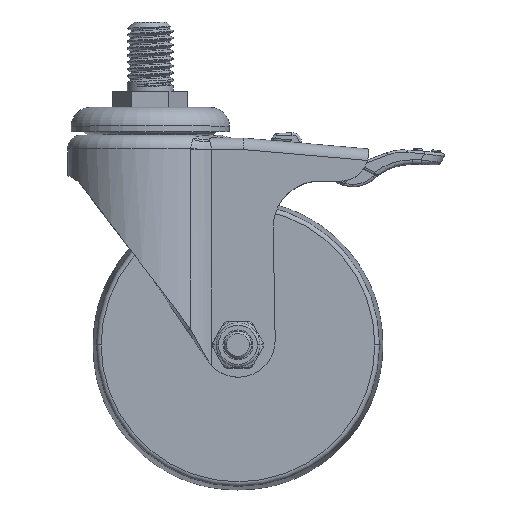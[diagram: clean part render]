
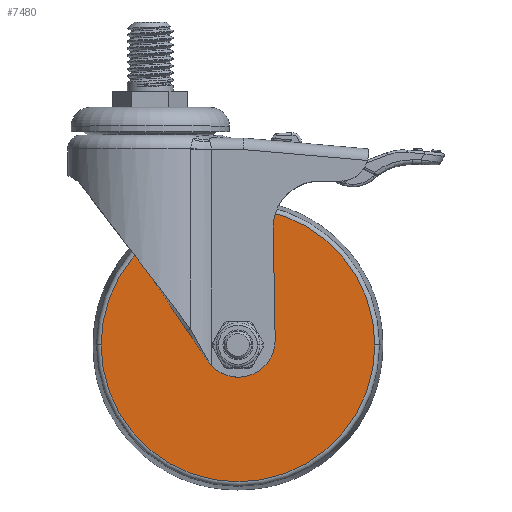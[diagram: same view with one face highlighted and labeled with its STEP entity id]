
A CAD part, top view. The second image highlights one B-rep face of the part: STEP entity #7480.
In plain terms, the highlighted planar face has unit normal (0, 0, 1) as drawn and (1, 0, 0) by its records, which use the part's own axes.
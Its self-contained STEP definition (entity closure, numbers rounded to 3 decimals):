
#7133=CARTESIAN_POINT('',(10.,0.,0.));
#7134=DIRECTION('',(-1.,0.,0.));
#7135=DIRECTION('',(0.,1.,0.));
#7136=AXIS2_PLACEMENT_3D('',#7133,#7134,#7135);
#7138=CARTESIAN_POINT('',(10.,0.,0.));
#7139=DIRECTION('',(1.,0.,0.));
#7140=DIRECTION('',(0.,1.,0.));
#7141=AXIS2_PLACEMENT_3D('',#7138,#7139,#7140);
#7143=CARTESIAN_POINT('',(10.,0.,0.));
#7144=DIRECTION('',(1.,0.,0.));
#7145=DIRECTION('',(0.,1.,0.));
#7146=AXIS2_PLACEMENT_3D('',#7143,#7144,#7145);
#7158=CARTESIAN_POINT('',(10.,0.,0.));
#7159=DIRECTION('',(-1.,0.,0.));
#7160=DIRECTION('',(0.,1.,0.));
#7161=AXIS2_PLACEMENT_3D('',#7158,#7159,#7160);
#7289=CARTESIAN_POINT('',(10.,6.353,0.));
#7290=VERTEX_POINT('',#7289);
#7291=CARTESIAN_POINT('',(10.,29.666,0.));
#7293=VERTEX_POINT('',#7291);
#7317=CARTESIAN_POINT('',(10.,-6.353,0.));
#7318=VERTEX_POINT('',#7317);
#7319=CARTESIAN_POINT('',(10.,-29.666,0.));
#7321=VERTEX_POINT('',#7319);
#7465=CARTESIAN_POINT('',(10.,0.,0.));
#7466=DIRECTION('',(1.,0.,0.));
#7467=DIRECTION('',(0.,-1.,0.));
#7468=AXIS2_PLACEMENT_3D('',#7465,#7466,#7467);
#7469=PLANE('',#7468);
#7471=ORIENTED_EDGE('',*,*,#7470,.F.);
#7473=ORIENTED_EDGE('',*,*,#7472,.T.);
#7474=EDGE_LOOP('',(#7471,#7473));
#7475=FACE_OUTER_BOUND('',#7474,.F.);
#7476=ORIENTED_EDGE('',*,*,#7444,.F.);
#7477=ORIENTED_EDGE('',*,*,#7460,.T.);
#7478=EDGE_LOOP('',(#7476,#7477));
#7479=FACE_BOUND('',#7478,.F.);
#7137=CIRCLE('',#7136,6.353);
#7142=CIRCLE('',#7141,6.353);
#7147=CIRCLE('',#7146,29.666);
#7162=CIRCLE('',#7161,29.666);
#7444=EDGE_CURVE('',#7290,#7318,#7137,.T.);
#7460=EDGE_CURVE('',#7290,#7318,#7142,.T.);
#7470=EDGE_CURVE('',#7293,#7321,#7147,.T.);
#7472=EDGE_CURVE('',#7293,#7321,#7162,.T.);
#7480=ADVANCED_FACE('',(#7475,#7479),#7469,.T.);
